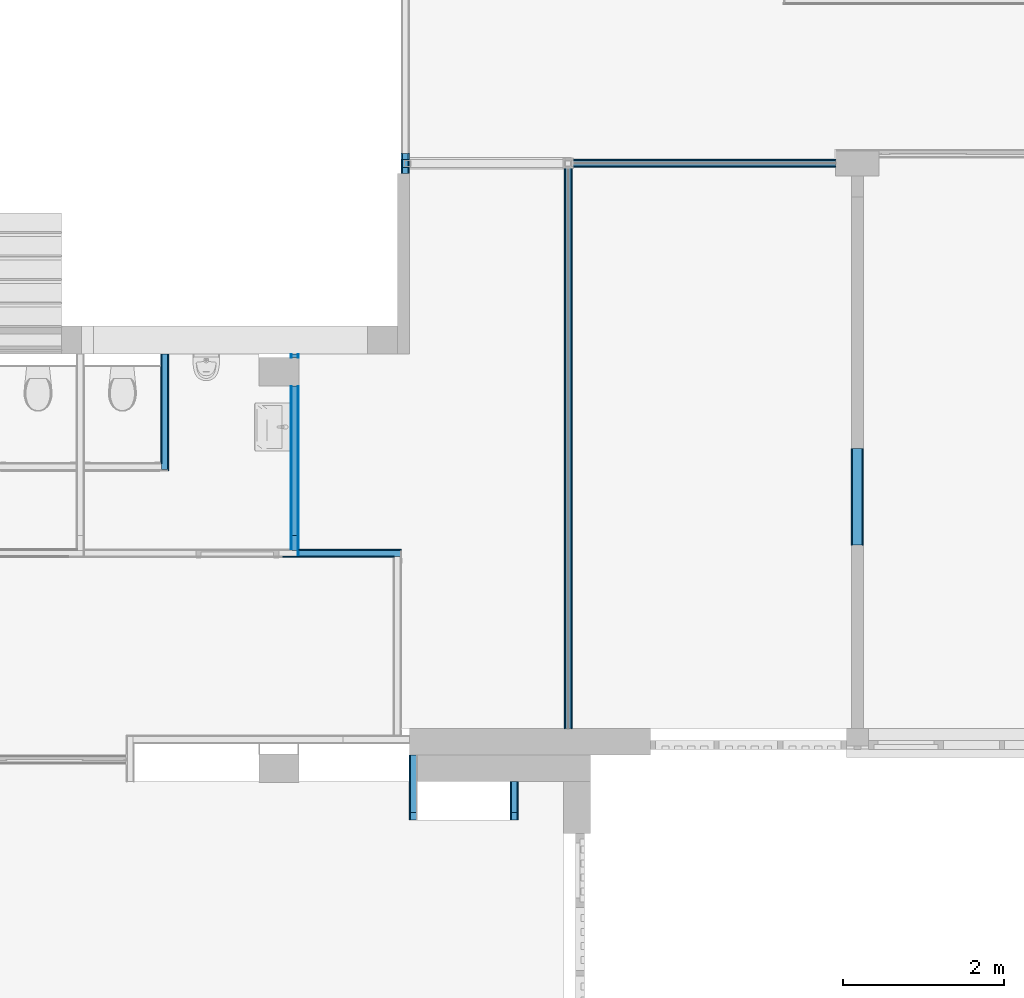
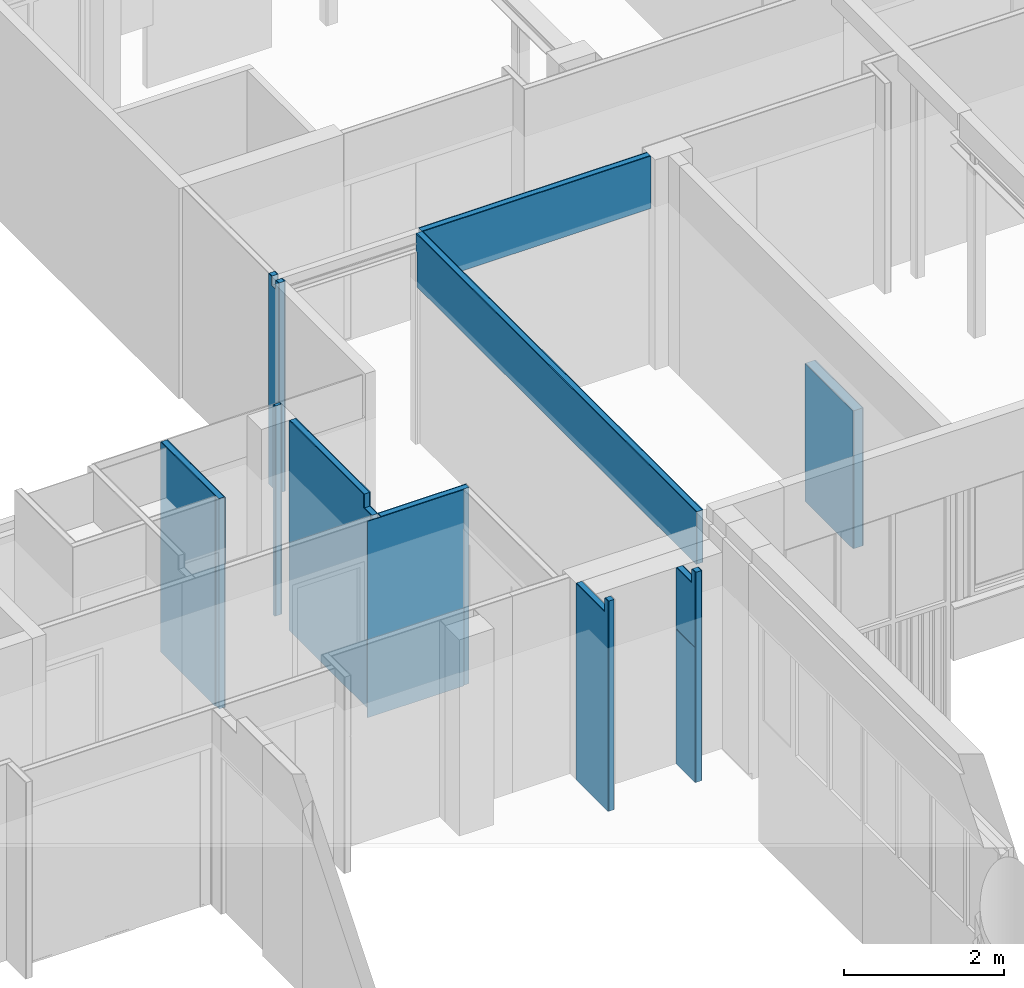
# One storey, part 61 of 99: 26 building element parts, 9 elements without a shape of their own.
"""IFC2X3 building model written with IfcOpenShell, lengths in millimetres."""

from ifc_helpers import new_model, entity, si_unit, converted_unit, derived_unit, money_unit, direction, frame, origin_with_axes, place, context, subcontext, project, spatial, faceted_brep, material, type_object, element, aggregate, save


model = new_model("IFC2X3")

# Units and contexts
model_context = context("Model", 3, precision=0.01, world=origin_with_axes(), true_north=direction((0.0, 1.0)))
body_context = subcontext(model_context, "Body", "Model", "MODEL_VIEW")
ifc_project = project(units=[si_unit("LENGTHUNIT", "METRE", prefix="MILLI"), si_unit("AREAUNIT", "SQUARE_METRE"), si_unit("VOLUMEUNIT", "CUBIC_METRE"), converted_unit("PLANEANGLEUNIT", "DEGREE", entity("IfcPlaneAngleMeasure", 0.0174532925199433), si_unit("PLANEANGLEUNIT", "RADIAN"), dimensions=[0, 0, 0, 0, 0, 0, 0]), money_unit("EUR"), converted_unit("TIMEUNIT", "Year", entity("IfcTimeMeasure", 31557600.0), si_unit("TIMEUNIT", "SECOND"), dimensions=[0, 0, 1, 0, 0, 0, 0]), si_unit("MASSUNIT", "GRAM", prefix="KILO"), si_unit("THERMODYNAMICTEMPERATUREUNIT", "DEGREE_CELSIUS"), si_unit("LUMINOUSINTENSITYUNIT", "LUMEN"), si_unit("ENERGYUNIT", "JOULE", prefix="MEGA"), derived_unit("THERMALCONDUCTANCEUNIT", [(si_unit("POWERUNIT", "WATT"), 1), (si_unit("LENGTHUNIT", "METRE"), -1), (si_unit("THERMODYNAMICTEMPERATUREUNIT", "KELVIN"), -1)]), derived_unit("SPECIFICHEATCAPACITYUNIT", [(si_unit("ENERGYUNIT", "JOULE"), 1), (si_unit("MASSUNIT", "GRAM", prefix="KILO"), -1), (si_unit("THERMODYNAMICTEMPERATUREUNIT", "KELVIN"), -1)]), derived_unit("MASSDENSITYUNIT", [(si_unit("MASSUNIT", "GRAM", prefix="KILO"), 1), (si_unit("VOLUMEUNIT", "CUBIC_METRE"), -1)])], contexts=[model_context])

# Site, building, storey
site_placement = place(None, origin_with_axes())
site = spatial("IfcSite", under=ifc_project, at=site_placement, Name="Site", CompositionType="ELEMENT")
building_placement = place(site_placement, origin_with_axes())
building = spatial("IfcBuilding", under=site, at=building_placement, Name="Naam gebouw", CompositionType="ELEMENT")
storey_placement = place(building_placement, frame((0.0, 0.0, 7650.0), z_axis=(0.0, 0.0, 1.0), x_axis=(1.0, 0.0, 0.0)))
storey = spatial("IfcBuildingStorey", under=building, at=storey_placement, Name="2e verdieping N", CompositionType="ELEMENT", Elevation=7650.0)

# Wall, building element parts
wall_type_1 = type_object("IfcWallType", Name="Metalstud iso 100 100", PredefinedType="NOTDEFINED")
wall_1_placement = place(storey_placement, frame((27427.99999999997, 15650.91242510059, 0.0), z_axis=(0.0, 0.0, 1.0), x_axis=(0.0, -1.0, 0.0)))
wall_1 = element("IfcWall", 1, at=wall_1_placement, inside=storey, type_object=wall_type_1, Name="_Wand-x")
ifc_material_1 = material(Name="Gipsplaat")
building_element_part_1_placement = place(wall_1_placement, origin_with_axes())
building_element_part_1 = element("IfcBuildingElementPart", 2, at=building_element_part_1_placement, material=ifc_material_1, Name="Gipsplaat", context=body_context, shape_type="Brep", body=[
    faceted_brep([(1450.000000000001, 0.0, 3199.999999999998), (0.0, 0.0, 3199.999999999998), (0.0, -12.49999999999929, 3199.999999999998), (1450.000000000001, -12.49999999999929, 3199.999999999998), (1450.000000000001, 0.0, 0.0), (0.0, 0.0, 0.0), (0.0, -12.49999999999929, 0.0), (1450.000000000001, -12.49999999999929, 0.0)], [[[0, 1, 2, 3]], [[4, 5, 1, 0]], [[2, 1, 5, 6]], [[3, 2, 6, 7]], [[3, 7, 4, 0]], [[7, 6, 5, 4]]]),
])
building_element_part_2_placement = place(wall_1_placement, origin_with_axes())
building_element_part_2 = element("IfcBuildingElementPart", 3, at=building_element_part_2_placement, material=ifc_material_1, Name="Gipsplaat", context=body_context, shape_type="Brep", body=[
    faceted_brep([(1362.500000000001, -87.49999999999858, 3199.999999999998), (0.0, -87.49999999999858, 3199.999999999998), (0.0, -100.0000000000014, 3199.999999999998), (1362.500000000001, -100.0000000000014, 3199.999999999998), (1362.500000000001, -87.49999999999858, 0.0), (0.0, -87.49999999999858, 0.0), (0.0, -100.0000000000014, 0.0), (1362.500000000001, -100.0000000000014, 0.0)], [[[0, 1, 2, 3]], [[4, 5, 1, 0]], [[2, 1, 5, 6]], [[3, 2, 6, 7]], [[3, 7, 4, 0]], [[7, 6, 5, 4]]]),
])
ifc_material_2 = material(Name="Isolatie - Steenwol LSW")
building_element_part_3_placement = place(wall_1_placement, origin_with_axes())
building_element_part_3 = element("IfcBuildingElementPart", 4, at=building_element_part_3_placement, material=ifc_material_2, Name="Isolatie - Steenwol LSW", context=body_context, shape_type="Brep", body=[
    faceted_brep([(1437.5, -12.49999999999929, 3199.999999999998), (0.0, -12.49999999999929, 3199.999999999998), (0.0, -87.49999999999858, 3199.999999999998), (1437.5, -87.49999999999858, 3199.999999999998), (1437.5, -12.49999999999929, 0.0), (0.0, -12.49999999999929, 0.0), (0.0, -87.49999999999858, 0.0), (1437.5, -87.49999999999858, 0.0)], [[[0, 1, 2, 3]], [[4, 5, 1, 0]], [[2, 1, 5, 6]], [[3, 2, 6, 7]], [[3, 7, 4, 0]], [[7, 6, 5, 4]]]),
])
aggregate(wall_1, [building_element_part_1, building_element_part_2, building_element_part_3])

wall_type_2 = type_object("IfcWallType", Name="Metalstud iso 150 150", PredefinedType="NOTDEFINED")
wall_2_placement = place(storey_placement, frame((36000.00000000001, 14474.26104745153, 0.0), z_axis=(0.0, 0.0, 1.0), x_axis=(0.0, -1.0, 0.0)))
wall_2 = element("IfcWall", 5, at=wall_2_placement, inside=storey, type_object=wall_type_2, Name="_Wand-x")
building_element_part_4_placement = place(wall_2_placement, origin_with_axes())
building_element_part_4 = element("IfcBuildingElementPart", 6, at=building_element_part_4_placement, material=ifc_material_1, Name="Gipsplaat", context=body_context, shape_type="Brep", body=[
    faceted_brep([(1199.999999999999, 62.5, 2100.0), (1199.999999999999, 75.00000000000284, 2100.0), (0.0, 75.00000000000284, 2100.0), (0.0, 62.5, 2100.0), (1199.999999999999, 62.5, 0.0), (1199.999999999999, 75.00000000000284, 0.0), (0.0, 75.00000000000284, 0.0), (0.0, 62.5, 0.0)], [[[0, 1, 2, 3]], [[0, 4, 5, 1]], [[1, 5, 6, 2]], [[3, 2, 6, 7]], [[4, 0, 3, 7]], [[5, 4, 7, 6]]]),
])
building_element_part_5_placement = place(wall_2_placement, origin_with_axes())
building_element_part_5 = element("IfcBuildingElementPart", 7, at=building_element_part_5_placement, material=ifc_material_1, Name="Gipsplaat", context=body_context, shape_type="Brep", body=[
    faceted_brep([(1199.999999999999, -75.00000000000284, 2100.0), (1199.999999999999, -62.5, 2100.0), (0.0, -62.5, 2100.0), (0.0, -75.00000000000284, 2100.0), (1199.999999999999, -75.00000000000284, 0.0), (1199.999999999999, -62.5, 0.0), (0.0, -62.5, 0.0), (0.0, -75.00000000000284, 0.0)], [[[0, 1, 2, 3]], [[0, 4, 5, 1]], [[1, 5, 6, 2]], [[3, 2, 6, 7]], [[4, 0, 3, 7]], [[5, 4, 7, 6]]]),
])
building_element_part_6_placement = place(wall_2_placement, origin_with_axes())
building_element_part_6 = element("IfcBuildingElementPart", 8, at=building_element_part_6_placement, material=ifc_material_2, Name="Isolatie - Steenwol LSW", context=body_context, shape_type="Brep", body=[
    faceted_brep([(1199.999999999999, -62.5, 2100.0), (1199.999999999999, 62.5, 2100.0), (0.0, 62.5, 2100.0), (0.0, -62.5, 2100.0), (1199.999999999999, -62.5, 0.0), (1199.999999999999, 62.5, 0.0), (0.0, 62.5, 0.0), (0.0, -62.5, 0.0)], [[[0, 1, 2, 3]], [[0, 4, 5, 1]], [[1, 5, 6, 2]], [[3, 2, 6, 7]], [[4, 0, 3, 7]], [[5, 4, 7, 6]]]),
])
aggregate(wall_2, [building_element_part_4, building_element_part_5, building_element_part_6])

wall_3_placement = place(storey_placement, frame((28950.0, 15650.91242510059, 0.0), z_axis=(0.0, 0.0, 1.0), x_axis=(0.0, -1.0, 0.0)))
wall_3 = element("IfcWall", 9, at=wall_3_placement, inside=storey, type_object=wall_type_1, Name="_Wand-x")
building_element_part_7_placement = place(wall_3_placement, origin_with_axes())
building_element_part_7 = element("IfcBuildingElementPart", 10, at=building_element_part_7_placement, material=ifc_material_1, Name="Gipsplaat", context=body_context, shape_type="Brep", body=[
    faceted_brep([(397.4999999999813, 100.0000000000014, 0.0), (397.4999999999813, 100.0000000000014, 3199.999999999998), (2254.999999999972, 100.0000000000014, 3199.999999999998), (2254.999999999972, 100.0000000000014, 2989.999999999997), (2517.554305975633, 100.0000000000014, 2989.999999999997), (2517.554305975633, 100.0000000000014, 0.0), (397.4999999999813, 87.49999999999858, 3199.999999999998), (397.4999999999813, 87.49999999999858, 0.0), (2254.999999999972, 87.49999999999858, 3199.999999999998), (2254.999999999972, 87.49999999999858, 2989.999999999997), (2517.554305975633, 87.49999999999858, 2989.999999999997), (2517.554305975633, 87.49999999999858, 0.0)], [[[0, 1, 2, 3, 4, 5]], [[6, 1, 0, 7]], [[1, 6, 8, 2]], [[9, 3, 2, 8]], [[10, 4, 3, 9]], [[5, 4, 10, 11]], [[7, 0, 5, 11]], [[6, 7, 11, 10, 9, 8]]]),
    faceted_brep([(42.49999999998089, 87.49999999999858, 3199.999999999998), (42.49999999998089, 100.0000000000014, 3199.999999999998), (0.0, 100.0000000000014, 3199.999999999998), (0.0, 87.49999999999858, 3199.999999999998), (42.49999999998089, 100.0000000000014, 0.0), (42.49999999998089, 87.49999999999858, 0.0), (0.0, 100.0000000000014, 0.0), (0.0, 87.49999999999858, 0.0)], [[[0, 1, 2, 3]], [[4, 1, 0, 5]], [[1, 4, 6, 2]], [[7, 3, 2, 6]], [[5, 0, 3, 7]], [[4, 5, 7, 6]]]),
])
building_element_part_8_placement = place(wall_3_placement, origin_with_axes())
building_element_part_8 = element("IfcBuildingElementPart", 11, at=building_element_part_8_placement, material=ifc_material_1, Name="Gipsplaat", context=body_context, shape_type="Brep", body=[
    faceted_brep([(397.4999999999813, 12.49999999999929, 0.0), (397.4999999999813, 12.49999999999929, 3199.999999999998), (2254.999999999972, 12.49999999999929, 3199.999999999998), (2254.999999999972, 12.49999999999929, 2989.999999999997), (2430.054305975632, 12.49999999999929, 2989.999999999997), (2430.054305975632, 12.49999999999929, 0.0), (397.4999999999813, 0.0, 3199.999999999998), (397.4999999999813, 0.0, 0.0), (2254.999999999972, 0.0, 3199.999999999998), (2254.999999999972, 0.0, 2989.999999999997), (2430.054305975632, 0.0, 2989.999999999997), (2430.054305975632, 0.0, 0.0)], [[[0, 1, 2, 3, 4, 5]], [[6, 1, 0, 7]], [[1, 6, 8, 2]], [[9, 3, 2, 8]], [[10, 4, 3, 9]], [[5, 4, 10, 11]], [[7, 0, 5, 11]], [[6, 7, 11, 10, 9, 8]]]),
    faceted_brep([(42.49999999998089, 0.0, 3199.999999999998), (42.49999999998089, 12.49999999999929, 3199.999999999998), (0.0, 12.49999999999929, 3199.999999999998), (0.0, 0.0, 3199.999999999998), (42.49999999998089, 12.49999999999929, 0.0), (42.49999999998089, 0.0, 0.0), (0.0, 12.49999999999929, 0.0), (0.0, 0.0, 0.0)], [[[0, 1, 2, 3]], [[4, 1, 0, 5]], [[1, 4, 6, 2]], [[7, 3, 2, 6]], [[5, 0, 3, 7]], [[4, 5, 7, 6]]]),
])
building_element_part_9_placement = place(wall_3_placement, origin_with_axes())
building_element_part_9 = element("IfcBuildingElementPart", 12, at=building_element_part_9_placement, material=ifc_material_2, Name="Isolatie - Steenwol LSW", context=body_context, shape_type="Brep", body=[
    faceted_brep([(397.4999999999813, 87.49999999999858, 0.0), (397.4999999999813, 87.49999999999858, 3199.999999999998), (2254.999999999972, 87.49999999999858, 3199.999999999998), (2254.999999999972, 87.49999999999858, 2989.999999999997), (2442.554305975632, 87.49999999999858, 2989.999999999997), (2442.554305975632, 87.49999999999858, 0.0), (397.4999999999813, 12.49999999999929, 3199.999999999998), (397.4999999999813, 12.49999999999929, 0.0), (2254.999999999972, 12.49999999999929, 3199.999999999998), (2254.999999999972, 12.49999999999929, 2989.999999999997), (2442.554305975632, 12.49999999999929, 2989.999999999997), (2442.554305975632, 12.49999999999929, 0.0)], [[[0, 1, 2, 3, 4, 5]], [[6, 1, 0, 7]], [[1, 6, 8, 2]], [[9, 3, 2, 8]], [[10, 4, 3, 9]], [[5, 4, 10, 11]], [[7, 0, 5, 11]], [[6, 7, 11, 10, 9, 8]]]),
    faceted_brep([(42.49999999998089, 12.49999999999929, 3199.999999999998), (42.49999999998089, 87.49999999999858, 3199.999999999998), (0.0, 87.49999999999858, 3199.999999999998), (0.0, 12.49999999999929, 3199.999999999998), (42.49999999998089, 87.49999999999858, 0.0), (42.49999999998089, 12.49999999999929, 0.0), (0.0, 87.49999999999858, 0.0), (0.0, 12.49999999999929, 0.0)], [[[0, 1, 2, 3]], [[4, 1, 0, 5]], [[1, 4, 6, 2]], [[7, 3, 2, 6]], [[5, 0, 3, 7]], [[4, 5, 7, 6]]]),
])
aggregate(wall_3, [building_element_part_7, building_element_part_8, building_element_part_9])

wall_4_placement = place(storey_placement, frame((31779.18709933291, 10330.91242510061, 0.0), z_axis=(0.0, 0.0, 1.0), x_axis=(0.0, -1.0, 0.0)))
wall_4 = element("IfcWall", 13, at=wall_4_placement, inside=storey, type_object=wall_type_1, Name="_Wand-x")
building_element_part_10_placement = place(wall_4_placement, origin_with_axes())
building_element_part_10 = element("IfcBuildingElementPart", 14, at=building_element_part_10_placement, material=ifc_material_1, Name="Gipsplaat", context=body_context, shape_type="Brep", body=[
    faceted_brep([(0.0, -12.49999999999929, 2989.999999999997), (0.0, 0.0, 2989.999999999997), (0.0, 0.0, 0.0), (0.0, -12.49999999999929, 0.0), (384.9999999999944, 0.0, 2989.999999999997), (384.9999999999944, -12.50000000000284, 2989.999999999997), (384.9999999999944, 0.0, 3199.999999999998), (474.9999999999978, 0.0, 3199.999999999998), (474.9999999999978, 0.0, 0.0), (474.9999999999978, -12.49999999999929, 0.0), (474.9999999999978, -12.49999999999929, 3199.999999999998), (384.9999999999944, -12.49999999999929, 3199.999999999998)], [[[0, 1, 2, 3]], [[4, 1, 0, 5]], [[4, 6, 7, 8, 2, 1]], [[2, 8, 9, 3]], [[5, 0, 3, 9, 10, 11]], [[11, 6, 4, 5]], [[6, 11, 10, 7]], [[7, 10, 9, 8]]]),
])
building_element_part_11_placement = place(wall_4_placement, origin_with_axes())
building_element_part_11 = element("IfcBuildingElementPart", 15, at=building_element_part_11_placement, material=ifc_material_2, Name="Isolatie - Steenwol LSW", context=body_context, shape_type="Brep", body=[
    faceted_brep([(0.0, -87.49999999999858, 2989.999999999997), (0.0, -12.49999999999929, 2989.999999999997), (0.0, -12.49999999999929, 0.0), (0.0, -87.49999999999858, 0.0), (384.9999999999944, -12.50000000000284, 2989.999999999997), (384.9999999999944, -87.49999999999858, 2989.999999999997), (384.9999999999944, -12.49999999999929, 3199.999999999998), (474.9999999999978, -12.49999999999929, 3199.999999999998), (474.9999999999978, -12.49999999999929, 0.0), (474.9999999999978, -87.49999999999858, 0.0), (474.9999999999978, -87.49999999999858, 3199.999999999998), (384.9999999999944, -87.49999999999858, 3199.999999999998)], [[[0, 1, 2, 3]], [[4, 1, 0, 5]], [[4, 6, 7, 8, 2, 1]], [[2, 8, 9, 3]], [[5, 0, 3, 9, 10, 11]], [[11, 6, 4, 5]], [[6, 11, 10, 7]], [[7, 10, 9, 8]]]),
])
building_element_part_12_placement = place(wall_4_placement, origin_with_axes())
building_element_part_12 = element("IfcBuildingElementPart", 16, at=building_element_part_12_placement, material=ifc_material_1, Name="Gipsplaat", context=body_context, shape_type="Brep", body=[
    faceted_brep([(25.00000000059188, -93.18709933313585, 2069.999999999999), (25.00000000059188, -92.18709933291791, 2069.999999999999), (474.9999971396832, -92.18709933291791, 2069.999999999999), (474.9999971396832, -100.0000000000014, 2069.999999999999), (24.99999717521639, -100.0000000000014, 2069.999999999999), (25.00000000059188, -93.18709933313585, 2049.999999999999), (25.00000000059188, -92.18709933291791, 2049.999999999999), (474.9999971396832, -92.18709933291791, 2049.999999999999), (474.9999971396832, -100.0000000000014, 2049.999999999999), (474.9999999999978, -100.0000000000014, 0.0), (474.9999999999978, -87.49999999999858, 0.0), (474.9999999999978, -87.49999999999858, 3199.999999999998), (474.9999999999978, -100.0000000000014, 3199.999999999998), (384.9999999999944, -100.0000000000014, 3199.999999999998), (384.9999999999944, -100.0000000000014, 2989.999999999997), (0.0, -100.0000000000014, 2989.999999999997), (0.0, -100.0000000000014, 0.0), (24.99999717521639, -100.0000000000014, 2049.999999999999), (0.0, -87.49999999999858, 0.0), (384.9999999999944, -87.49999999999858, 2989.999999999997), (384.9999999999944, -87.49999999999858, 3199.999999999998), (0.0, -87.49999999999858, 2989.999999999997)], [[[0, 1, 2, 3, 4]], [[0, 5, 6, 1]], [[7, 2, 1, 6]], [[2, 7, 8, 9, 10, 11, 12, 3]], [[4, 3, 12, 13, 14, 15, 16, 9, 8, 17]], [[5, 0, 4, 17]], [[7, 6, 5, 17, 8]], [[18, 10, 9, 16]], [[19, 20, 11, 10, 18, 21]], [[20, 13, 12, 11]], [[13, 20, 19, 14]], [[19, 21, 15, 14]], [[15, 21, 18, 16]]]),
])
aggregate(wall_4, [building_element_part_10, building_element_part_11, building_element_part_12])

wall_5_placement = place(storey_placement, frame((30425.0, 20300.91242510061, 0.0), z_axis=(0.0, 0.0, 1.0), x_axis=(0.0, -1.0, 0.0)))
wall_5 = element("IfcWall", 17, at=wall_5_placement, inside=storey, type_object=wall_type_1, Name="_Wand-x")
building_element_part_13_placement = place(wall_5_placement, origin_with_axes())
building_element_part_13 = element("IfcBuildingElementPart", 18, at=building_element_part_13_placement, material=ifc_material_2, Name="Isolatie - Steenwol LSW", context=body_context, shape_type="Brep", body=[
    faceted_brep([(2224.999999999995, -87.49999999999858, 3199.999999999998), (2224.999999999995, -12.49999999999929, 3199.999999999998), (2149.999999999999, -12.49999999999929, 3199.999999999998), (2149.999999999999, -87.49999999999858, 3199.999999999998), (2224.999999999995, -12.49999999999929, 3059.999999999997), (2224.999999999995, -87.49999999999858, 3059.999999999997), (2324.999999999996, -12.49999999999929, 3059.999999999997), (2324.999999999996, -12.49999999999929, 3199.999999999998), (2399.999999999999, -12.49999999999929, 3199.999999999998), (2399.999999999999, -12.49999999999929, 0.0), (2149.999999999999, -12.49999999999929, 0.0), (2149.999999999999, -87.49999999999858, 0.0), (2399.999999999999, -87.49999999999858, 0.0), (2399.999999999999, -87.49999999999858, 3199.999999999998), (2324.999999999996, -87.49999999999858, 3199.999999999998), (2324.999999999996, -87.49999999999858, 3059.999999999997)], [[[0, 1, 2, 3]], [[4, 1, 0, 5]], [[6, 7, 8, 9, 10, 2, 1, 4]], [[3, 2, 10, 11]], [[5, 0, 3, 11, 12, 13, 14, 15]], [[6, 4, 5, 15]], [[14, 7, 6, 15]], [[7, 14, 13, 8]], [[12, 9, 8, 13]], [[11, 10, 9, 12]]]),
])
building_element_part_14_placement = place(wall_5_placement, origin_with_axes())
building_element_part_14 = element("IfcBuildingElementPart", 19, at=building_element_part_14_placement, material=ifc_material_1, Name="Gipsplaat", context=body_context, shape_type="Brep", body=[
    faceted_brep([(2224.999999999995, -12.49999999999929, 3199.999999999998), (2224.999999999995, 0.0, 3199.999999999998), (2149.999999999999, 0.0, 3199.999999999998), (2149.999999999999, -12.49999999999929, 3199.999999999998), (2224.999999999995, 0.0, 3059.999999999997), (2224.999999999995, -12.49999999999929, 3059.999999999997), (2324.999999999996, 0.0, 3059.999999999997), (2324.999999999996, 0.0, 3199.999999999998), (2399.999999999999, 0.0, 3199.999999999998), (2399.999999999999, 0.0, 0.0), (2149.999999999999, 0.0, 0.0), (2149.999999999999, -12.49999999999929, 0.0), (2399.999999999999, -12.49999999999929, 0.0), (2399.999999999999, -12.49999999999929, 3199.999999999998), (2324.999999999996, -12.49999999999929, 3199.999999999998), (2324.999999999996, -12.49999999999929, 3059.999999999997)], [[[0, 1, 2, 3]], [[4, 1, 0, 5]], [[6, 7, 8, 9, 10, 2, 1, 4]], [[3, 2, 10, 11]], [[5, 0, 3, 11, 12, 13, 14, 15]], [[6, 4, 5, 15]], [[14, 7, 6, 15]], [[7, 14, 13, 8]], [[12, 9, 8, 13]], [[11, 10, 9, 12]]]),
])
building_element_part_15_placement = place(wall_5_placement, origin_with_axes())
building_element_part_15 = element("IfcBuildingElementPart", 20, at=building_element_part_15_placement, material=ifc_material_1, Name="Gipsplaat", context=body_context, shape_type="Brep", body=[
    faceted_brep([(2224.999999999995, -100.0000000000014, 3199.999999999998), (2224.999999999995, -87.49999999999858, 3199.999999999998), (2149.999999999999, -87.49999999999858, 3199.999999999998), (2149.999999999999, -100.0000000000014, 3199.999999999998), (2224.999999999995, -87.49999999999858, 3059.999999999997), (2224.999999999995, -100.0000000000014, 3059.999999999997), (2324.999999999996, -87.49999999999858, 3059.999999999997), (2324.999999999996, -87.49999999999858, 3199.999999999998), (2399.999999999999, -87.49999999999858, 3199.999999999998), (2399.999999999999, -87.49999999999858, 0.0), (2149.999999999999, -87.49999999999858, 0.0), (2149.999999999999, -100.0000000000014, 0.0), (2399.999999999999, -100.0000000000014, 0.0), (2399.999999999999, -100.0000000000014, 3199.999999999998), (2324.999999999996, -100.0000000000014, 3199.999999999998), (2324.999999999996, -100.0000000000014, 3059.999999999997)], [[[0, 1, 2, 3]], [[4, 1, 0, 5]], [[6, 7, 8, 9, 10, 2, 1, 4]], [[3, 2, 10, 11]], [[5, 0, 3, 11, 12, 13, 14, 15]], [[6, 4, 5, 15]], [[14, 7, 6, 15]], [[7, 14, 13, 8]], [[12, 9, 8, 13]], [[11, 10, 9, 12]]]),
])
aggregate(wall_5, [building_element_part_13, building_element_part_14, building_element_part_15])

wall_6_placement = place(storey_placement, frame((28950.0, 13120.85811912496, 0.0), z_axis=(0.0, 0.0, 1.0), x_axis=(1.0, 0.0, 0.0)))
wall_6 = element("IfcWall", 21, at=wall_6_placement, inside=storey, type_object=wall_type_1, Name="_Wand-x")
building_element_part_16_placement = place(wall_6_placement, origin_with_axes())
building_element_part_16 = element("IfcBuildingElementPart", 22, at=building_element_part_16_placement, material=ifc_material_2, Name="Isolatie - Steenwol LSW", context=body_context, shape_type="Brep", body=[
    faceted_brep([(99.99999999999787, 87.50000000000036, 2989.999999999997), (1362.499999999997, 87.50000000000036, 2989.999999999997), (1362.499999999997, 87.50000000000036, 0.0), (99.99999999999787, 87.50000000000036, 0.0), (1362.499999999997, 12.50000000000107, 2989.999999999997), (99.99999999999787, 12.49999999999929, 2989.999999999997), (1362.499999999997, 12.49999999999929, 0.0), (99.99999999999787, 12.49999999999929, 0.0)], [[[0, 1, 2, 3]], [[4, 1, 0, 5]], [[1, 4, 6, 2]], [[6, 7, 3, 2]], [[5, 0, 3, 7]], [[4, 5, 7, 6]]]),
])
building_element_part_17_placement = place(wall_6_placement, origin_with_axes())
building_element_part_17 = element("IfcBuildingElementPart", 23, at=building_element_part_17_placement, material=ifc_material_1, Name="Gipsplaat", context=body_context, shape_type="Brep", body=[
    faceted_brep([(99.99999999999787, 99.99999999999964, 2989.999999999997), (1375.0, 99.99999999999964, 2989.999999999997), (1375.0, 99.99999999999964, 0.0), (99.99999999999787, 99.99999999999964, 0.0), (1375.0, 87.50000000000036, 2989.999999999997), (99.99999999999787, 87.50000000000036, 2989.999999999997), (1375.0, 87.50000000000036, 0.0), (99.99999999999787, 87.50000000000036, 0.0)], [[[0, 1, 2, 3]], [[4, 1, 0, 5]], [[1, 4, 6, 2]], [[6, 7, 3, 2]], [[5, 0, 3, 7]], [[4, 5, 7, 6]]]),
])
building_element_part_18_placement = place(wall_6_placement, origin_with_axes())
building_element_part_18 = element("IfcBuildingElementPart", 24, at=building_element_part_18_placement, material=ifc_material_1, Name="Gipsplaat", context=body_context, shape_type="Brep", body=[
    faceted_brep([(-100.0000000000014, 12.50000000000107, 2989.999999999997), (1287.499999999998, 12.50000000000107, 2989.999999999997), (1287.499999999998, 12.49999999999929, 0.0), (-100.0000000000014, 12.49999999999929, 0.0), (1287.499999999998, 0.0, 2989.999999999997), (-100.0000000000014, 0.0, 2989.999999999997), (1287.499999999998, 0.0, 0.0), (-100.0000000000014, 0.0, 0.0)], [[[0, 1, 2, 3]], [[4, 1, 0, 5]], [[1, 4, 6, 2]], [[6, 7, 3, 2]], [[5, 0, 3, 7]], [[4, 5, 7, 6]]]),
])
aggregate(wall_6, [building_element_part_16, building_element_part_17, building_element_part_18])

wall_7_placement = place(storey_placement, frame((32439.99999999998, 18025.91242510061, 2400.0), z_axis=(0.0, 0.0, 1.0), x_axis=(1.0, 0.0, 0.0)))
wall_7 = element("IfcWall", 25, at=wall_7_placement, inside=storey, type_object=wall_type_1, Name="_Wand-x")
building_element_part_19_placement = place(wall_7_placement, origin_with_axes())
building_element_part_19 = element("IfcBuildingElementPart", 26, at=building_element_part_19_placement, material=ifc_material_2, Name="Isolatie - Steenwol LSW", context=body_context, shape_type="Brep", body=[
    faceted_brep([(24.99999999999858, 37.50000000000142, 0.0), (24.99999999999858, 37.50000000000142, 526.9999999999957), (0.0, 37.50000000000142, 526.9999999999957), (0.0, 37.50000000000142, 799.9999999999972), (3289.999999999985, 37.50000000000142, 799.9999999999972), (3289.999999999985, 37.50000000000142, 0.0), (24.99999999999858, -37.50000000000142, 526.9999999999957), (24.99999999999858, -37.50000000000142, 0.0), (0.0, -37.50000019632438, 526.9999999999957), (0.0, -37.50000029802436, 799.9999999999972), (3289.999999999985, -37.50000000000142, 799.9999999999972), (3289.999999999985, -37.50000000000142, 0.0)], [[[0, 1, 2, 3, 4, 5]], [[6, 1, 0, 7]], [[8, 2, 1, 6]], [[3, 2, 8, 9]], [[10, 4, 3, 9]], [[11, 5, 4, 10]], [[11, 7, 0, 5]], [[8, 6, 7, 11, 10, 9]]]),
])
building_element_part_20_placement = place(wall_7_placement, origin_with_axes())
building_element_part_20 = element("IfcBuildingElementPart", 27, at=building_element_part_20_placement, material=ifc_material_1, Name="Gipsplaat", context=body_context, shape_type="Brep", body=[
    faceted_brep([(24.99999999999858, 50.00000000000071, 0.0), (24.99999999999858, 49.99999928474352, 526.9999999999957), (0.0, 49.99999928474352, 526.9999999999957), (0.0, 49.99999970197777, 799.9999999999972), (3289.999999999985, 50.00000000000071, 799.9999999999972), (3289.999999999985, 50.00000000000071, 0.0), (24.99999999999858, 37.50000000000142, 526.9999999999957), (24.99999999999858, 37.50000000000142, 0.0), (0.0, 37.50000000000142, 526.9999999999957), (0.0, 37.50000000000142, 799.9999999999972), (3289.999999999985, 37.50000000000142, 799.9999999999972), (3289.999999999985, 37.50000000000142, 0.0)], [[[0, 1, 2, 3, 4, 5]], [[6, 1, 0, 7]], [[8, 2, 1, 6]], [[3, 2, 8, 9]], [[10, 4, 3, 9]], [[11, 5, 4, 10]], [[11, 7, 0, 5]], [[8, 6, 7, 11, 10, 9]]]),
])

# Wall, building element part
wall_8_placement = place(storey_placement, frame((32399.99999999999, 10990.9124251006, 2400.0), z_axis=(0.0, 0.0, 1.0), x_axis=(0.0, 1.0, 0.0)))
wall_8 = element("IfcWall", 28, at=wall_8_placement, inside=storey, type_object=wall_type_1, Name="_Wand-x")
building_element_part_21_placement = place(wall_8_placement, origin_with_axes())
building_element_part_21 = element("IfcBuildingElementPart", 29, at=building_element_part_21_placement, material=ifc_material_2, Name="Isolatie - Steenwol LSW", context=body_context, shape_type="Brep", body=[
    faceted_brep([(6970.000000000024, -37.50000000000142, 0.0), (6970.000000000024, -37.50000102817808, 526.9999999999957), (6995.000000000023, -37.50000067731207, 526.9999999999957), (6995.000000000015, -37.50000102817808, 799.9999999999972), (0.0, -37.5000000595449, 799.9999999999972), (0.0, -37.50000000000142, 0.0), (6970.000000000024, 37.50000000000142, 0.0), (6970.000000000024, 37.50000093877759, 526.9999999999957), (6995.000000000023, 37.50000061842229, 526.9999999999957), (6995.000000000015, 37.50000093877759, 799.9999999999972), (0.0, 37.50000005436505, 799.9999999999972), (0.0, 37.50000000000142, 0.0)], [[[0, 1, 2, 3, 4, 5]], [[1, 0, 6, 7]], [[8, 2, 1, 7]], [[2, 8, 9, 3]], [[4, 3, 9, 10]], [[11, 5, 4, 10]], [[6, 0, 5, 11]], [[7, 6, 11, 10, 9, 8]]]),
])

# Building element part
building_element_part_22_placement = place(wall_7_placement, origin_with_axes())
building_element_part_22 = element("IfcBuildingElementPart", 30, at=building_element_part_22_placement, material=ifc_material_1, Name="Gipsplaat", context=body_context, shape_type="Brep", body=[
    faceted_brep([(24.99999999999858, -37.50000000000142, 0.0), (24.99999999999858, -37.50000029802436, 526.9999999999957), (0.0, -37.50000019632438, 526.9999999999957), (0.0, -37.50000029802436, 799.9999999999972), (3289.999999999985, -37.50000000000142, 799.9999999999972), (3289.999999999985, -37.50000000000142, 0.0), (24.99999999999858, -50.00000000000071, 526.9999999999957), (24.99999999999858, -50.00000000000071, 0.0), (0.0, -50.00000000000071, 526.9999999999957), (0.0, -50.00000000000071, 799.9999999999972), (3289.999999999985, -50.00000000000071, 799.9999999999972), (3289.999999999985, -50.00000000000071, 0.0)], [[[0, 1, 2, 3, 4, 5]], [[6, 1, 0, 7]], [[8, 2, 1, 6]], [[3, 2, 8, 9]], [[10, 4, 3, 9]], [[11, 5, 4, 10]], [[11, 7, 0, 5]], [[8, 6, 7, 11, 10, 9]]]),
])

aggregate(wall_7, [building_element_part_19, building_element_part_20, building_element_part_22])

building_element_part_23_placement = place(wall_8_placement, origin_with_axes())
building_element_part_23 = element("IfcBuildingElementPart", 31, at=building_element_part_23_placement, material=ifc_material_1, Name="Gipsplaat", context=body_context, shape_type="Brep", body=[
    faceted_brep([(6970.000000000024, 37.50000000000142, 0.0), (6970.000000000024, 37.50000093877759, 526.9999999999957), (6995.000000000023, 37.50000061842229, 526.9999999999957), (6995.000000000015, 37.50000093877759, 799.9999999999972), (0.0, 37.50000005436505, 799.9999999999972), (0.0, 37.50000000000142, 0.0), (6970.000000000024, 49.99999999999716, 0.0), (6970.000000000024, 49.99999991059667, 526.9999999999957), (6995.000000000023, 49.99999991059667, 526.9999999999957), (6995.000000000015, 49.99999991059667, 799.9999999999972), (0.0, 49.99999999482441, 799.9999999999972), (0.0, 49.99999999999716, 0.0)], [[[0, 1, 2, 3, 4, 5]], [[1, 0, 6, 7]], [[8, 2, 1, 7]], [[2, 8, 9, 3]], [[4, 3, 9, 10]], [[11, 5, 4, 10]], [[6, 0, 5, 11]], [[7, 6, 11, 10, 9, 8]]]),
])

building_element_part_24_placement = place(wall_8_placement, origin_with_axes())
building_element_part_24 = element("IfcBuildingElementPart", 32, at=building_element_part_24_placement, material=ifc_material_1, Name="Gipsplaat", context=body_context, shape_type="Brep", body=[
    faceted_brep([(6970.000000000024, -49.99999999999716, 0.0), (6970.000000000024, -49.99999999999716, 526.9999999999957), (6995.000000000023, -49.99999999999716, 526.9999999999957), (6995.000000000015, -49.99999999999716, 799.9999999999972), (0.0, -49.99999999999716, 799.9999999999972), (0.0, -49.99999999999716, 0.0), (6970.000000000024, -37.50000000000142, 0.0), (6970.000000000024, -37.50000102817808, 526.9999999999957), (6995.000000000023, -37.50000067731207, 526.9999999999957), (6995.000000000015, -37.50000102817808, 799.9999999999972), (0.0, -37.5000000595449, 799.9999999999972), (0.0, -37.50000000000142, 0.0)], [[[0, 1, 2, 3, 4, 5]], [[1, 0, 6, 7]], [[8, 2, 1, 7]], [[2, 8, 9, 3]], [[4, 3, 9, 10]], [[5, 4, 10, 11]], [[6, 0, 5, 11]], [[7, 6, 11, 10, 9, 8]]]),
])

aggregate(wall_8, [building_element_part_21, building_element_part_23, building_element_part_24])

# Wall, building element parts
wall_9_placement = place(storey_placement, frame((30425.0, 10660.91242510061, 0.0), z_axis=(0.0, 0.0, 1.0), x_axis=(0.0, -1.0, 0.0)))
wall_9 = element("IfcWall", 33, at=wall_9_placement, inside=storey, type_object=wall_type_1, Name="_Wand-x")
building_element_part_25_placement = place(wall_9_placement, origin_with_axes())
building_element_part_25 = element("IfcBuildingElementPart", 34, at=building_element_part_25_placement, material=ifc_material_2, Name="Isolatie - Steenwol LSW", context=body_context, shape_type="Brep", body=[
    faceted_brep([(0.0, 12.49999999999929, 2989.999999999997), (0.0, 87.49999999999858, 2989.999999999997), (0.0, 87.49999999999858, 0.0), (0.0, 12.49999999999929, 0.0), (714.9999999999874, 87.49999999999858, 2989.999999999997), (714.9999999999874, 12.49999999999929, 2989.999999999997), (714.9999999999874, 87.49999999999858, 3199.999999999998), (804.9999999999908, 87.49999999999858, 3199.999999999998), (804.9999999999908, 87.49999999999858, 0.0), (804.9999999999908, 12.49999999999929, 0.0), (804.9999999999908, 12.49999999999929, 3199.999999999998), (714.9999999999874, 12.49999999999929, 3199.999999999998)], [[[0, 1, 2, 3]], [[4, 1, 0, 5]], [[4, 6, 7, 8, 2, 1]], [[2, 8, 9, 3]], [[5, 0, 3, 9, 10, 11]], [[11, 6, 4, 5]], [[6, 11, 10, 7]], [[7, 10, 9, 8]]]),
])
building_element_part_26_placement = place(wall_9_placement, origin_with_axes())
building_element_part_26 = element("IfcBuildingElementPart", 35, at=building_element_part_26_placement, material=ifc_material_1, Name="Gipsplaat", context=body_context, shape_type="Brep", body=[
    faceted_brep([(0.0, 0.0, 2989.999999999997), (0.0, 12.49999999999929, 2989.999999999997), (0.0, 12.49999999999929, 0.0), (0.0, 0.0, 0.0), (714.9999999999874, 12.49999999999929, 2989.999999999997), (714.9999999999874, 0.0, 2989.999999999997), (714.9999999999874, 12.49999999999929, 3199.999999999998), (804.9999999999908, 12.49999999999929, 3199.999999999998), (804.9999999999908, 12.49999999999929, 0.0), (804.9999999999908, 0.0, 0.0), (804.9999999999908, 0.0, 3199.999999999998), (714.9999999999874, 0.0, 3199.999999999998)], [[[0, 1, 2, 3]], [[4, 1, 0, 5]], [[4, 6, 7, 8, 2, 1]], [[2, 8, 9, 3]], [[5, 0, 3, 9, 10, 11]], [[11, 6, 4, 5]], [[6, 11, 10, 7]], [[7, 10, 9, 8]]]),
])
aggregate(wall_9, [building_element_part_25, building_element_part_26])

save(model, "model.ifc")
